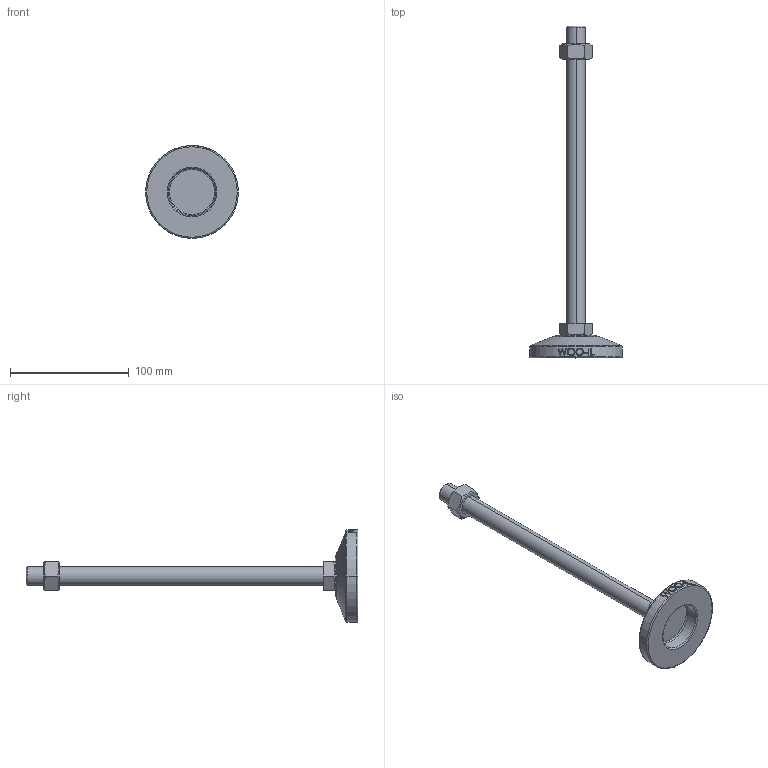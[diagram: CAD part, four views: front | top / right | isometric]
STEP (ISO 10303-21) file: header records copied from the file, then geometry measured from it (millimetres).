
FILE_DESCRIPTION (( 'STEP AP214' ), '1' );
FILE_NAME ('MFT78-M16-250.step', '2021-03-29T04:43:50', ( '' ), ( '' ), 'SwSTEP 2.0', 'SolidWorks 2019', '' );
FILE_SCHEMA (( 'AUTOMOTIVE_DESIGN' ));
Length unit declared in the file: millimetre
Products named in the file (2): MFT78-M16-250
Bounding box: 78 x 279 x 78 mm (x, y, z)
Volume: 115621.1 mm3; surface area: 30146.8 mm2
Topology: 3 solids, 3 shells, 106 faces, 243 edges, 154 vertices
Faces by surface type: plane 48, cylinder 18, bspline 16, cone 14, torus 10
Entity records: 4506 total; most frequent: CARTESIAN_POINT 2163, ORIENTED_EDGE 486, DIRECTION 439, EDGE_CURVE 243, AXIS2_PLACEMENT_3D 170, VERTEX_POINT 154, EDGE_LOOP 119, FACE_OUTER_BOUND 106
